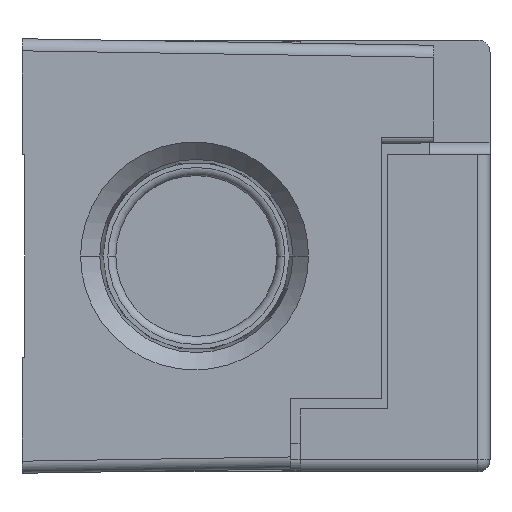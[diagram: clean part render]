
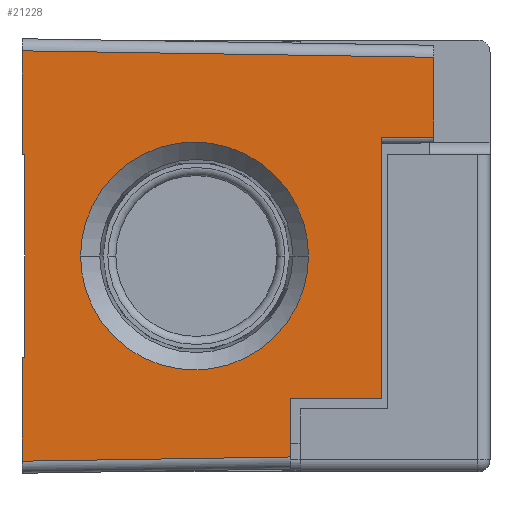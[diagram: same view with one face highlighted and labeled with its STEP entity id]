
A CAD part, front view. The second image highlights one B-rep face of the part: STEP entity #21228.
In plain terms, the highlighted planar face has unit normal (0.016, -1, 0).
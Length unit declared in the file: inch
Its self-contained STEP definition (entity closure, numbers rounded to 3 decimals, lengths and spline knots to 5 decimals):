
#16813=CARTESIAN_POINT('',(0.161,-3.18829,-0.7493));
#16823=DIRECTION('',(0.,0.,1.));
#16824=VECTOR('',#16823,0.2193);
#16825=CARTESIAN_POINT('',(0.161,-3.18829,-0.7493));
#16826=LINE('',#16825,#16824);
#17143=DIRECTION('',(0.,0.,1.));
#17144=VECTOR('',#17143,0.973);
#17145=CARTESIAN_POINT('',(0.501,-3.18295,-0.53));
#17146=LINE('',#17145,#17144);
#17151=DIRECTION('',(1.,0.016,0.));
#17152=VECTOR('',#17151,0.34004);
#17153=CARTESIAN_POINT('',(0.161,-3.18829,-0.53));
#17154=LINE('',#17153,#17152);
#17155=DIRECTION('',(-1.,-0.016,0.016));
#17156=VECTOR('',#17155,1.53538);
#17157=CARTESIAN_POINT('',(0.696,-3.17989,0.74089));
#17158=LINE('',#17157,#17156);
#17159=DIRECTION('',(1.,0.016,0.016));
#17160=VECTOR('',#17159,1.00025);
#17161=CARTESIAN_POINT('',(-0.839,-3.204,-0.76501));
#17162=LINE('',#17161,#17160);
#17163=DIRECTION('',(1.,0.016,0.));
#17164=VECTOR('',#17163,0.01);
#17165=CARTESIAN_POINT('',(-0.839,-3.204,-0.378));
#17166=LINE('',#17165,#17164);
#17167=DIRECTION('',(0.,0.,1.));
#17168=VECTOR('',#17167,0.756);
#17169=CARTESIAN_POINT('',(-0.829,-3.20384,-0.378));
#17170=LINE('',#17169,#17168);
#17171=DIRECTION('',(1.,0.016,0.));
#17172=VECTOR('',#17171,0.01);
#17173=CARTESIAN_POINT('',(-0.839,-3.204,0.378));
#17174=LINE('',#17173,#17172);
#17175=CARTESIAN_POINT('',(0.22922,-3.18722,0.));
#17176=CARTESIAN_POINT('',(0.22922,-3.18722,
-0.02503));
#17177=CARTESIAN_POINT('',(0.22477,-3.18729,
-0.07698));
#17178=CARTESIAN_POINT('',(0.20223,-3.18764,
-0.15686));
#17179=CARTESIAN_POINT('',(0.16265,-3.18826,
-0.23386));
#17180=CARTESIAN_POINT('',(0.10694,-3.18914,
-0.30258));
#17181=CARTESIAN_POINT('',(0.03821,-3.19022,
-0.35828));
#17182=CARTESIAN_POINT('',(-0.02595,-3.19123,
-0.39125));
#17183=CARTESIAN_POINT('',(-0.07874,-3.19206,
-0.40913));
#17184=CARTESIAN_POINT('',(-0.11844,-3.19268,
-0.41841));
#17185=CARTESIAN_POINT('',(-0.15111,-3.19319,
-0.42285));
#17186=CARTESIAN_POINT('',(-0.1768,-3.1936,
-0.42456));
#17187=CARTESIAN_POINT('',(-0.19567,-3.19389,
-0.42498));
#17188=CARTESIAN_POINT('',(-0.21455,-3.19419,
-0.42456));
#17189=CARTESIAN_POINT('',(-0.24024,-3.19459,
-0.42285));
#17190=CARTESIAN_POINT('',(-0.27291,-3.19511,
-0.41841));
#17191=CARTESIAN_POINT('',(-0.31261,-3.19573,
-0.40913));
#17192=CARTESIAN_POINT('',(-0.36539,-3.19656,
-0.39125));
#17193=CARTESIAN_POINT('',(-0.42956,-3.19757,
-0.35828));
#17194=CARTESIAN_POINT('',(-0.49829,-3.19865,
-0.30258));
#17195=CARTESIAN_POINT('',(-0.554,-3.19952,
-0.23386));
#17196=CARTESIAN_POINT('',(-0.59357,-3.20014,
-0.15686));
#17197=CARTESIAN_POINT('',(-0.61612,-3.2005,
-0.07698));
#17198=CARTESIAN_POINT('',(-0.62057,-3.20057,
-0.02503));
#17199=CARTESIAN_POINT('',(-0.62057,-3.20057,0.));
#17201=CARTESIAN_POINT('',(-0.62057,-3.20057,0.));
#17202=CARTESIAN_POINT('',(-0.62057,-3.20057,
0.02503));
#17203=CARTESIAN_POINT('',(-0.61612,-3.2005,
0.07698));
#17204=CARTESIAN_POINT('',(-0.59357,-3.20014,
0.15686));
#17205=CARTESIAN_POINT('',(-0.554,-3.19952,
0.23386));
#17206=CARTESIAN_POINT('',(-0.49829,-3.19865,
0.30258));
#17207=CARTESIAN_POINT('',(-0.42956,-3.19757,
0.35828));
#17208=CARTESIAN_POINT('',(-0.36539,-3.19656,
0.39125));
#17209=CARTESIAN_POINT('',(-0.31261,-3.19573,
0.40913));
#17210=CARTESIAN_POINT('',(-0.27291,-3.19511,
0.41841));
#17211=CARTESIAN_POINT('',(-0.24024,-3.19459,
0.42285));
#17212=CARTESIAN_POINT('',(-0.21455,-3.19419,
0.42456));
#17213=CARTESIAN_POINT('',(-0.19567,-3.19389,
0.42498));
#17214=CARTESIAN_POINT('',(-0.1768,-3.1936,
0.42456));
#17215=CARTESIAN_POINT('',(-0.15111,-3.19319,
0.42285));
#17216=CARTESIAN_POINT('',(-0.11844,-3.19268,
0.41841));
#17217=CARTESIAN_POINT('',(-0.07874,-3.19206,
0.40913));
#17218=CARTESIAN_POINT('',(-0.02595,-3.19123,
0.39125));
#17219=CARTESIAN_POINT('',(0.03821,-3.19022,
0.35828));
#17220=CARTESIAN_POINT('',(0.10694,-3.18914,
0.30258));
#17221=CARTESIAN_POINT('',(0.16265,-3.18826,
0.23386));
#17222=CARTESIAN_POINT('',(0.20223,-3.18764,
0.15686));
#17223=CARTESIAN_POINT('',(0.22477,-3.18729,
0.07698));
#17224=CARTESIAN_POINT('',(0.22922,-3.18722,
0.02503));
#17225=CARTESIAN_POINT('',(0.22922,-3.18722,0.));
#17227=CARTESIAN_POINT('',(-0.839,-3.204,0.76501));
#17237=DIRECTION('',(0.,0.,1.));
#17238=VECTOR('',#17237,0.38701);
#17239=CARTESIAN_POINT('',(-0.839,-3.204,0.378));
#17240=LINE('',#17239,#17238);
#17741=CARTESIAN_POINT('',(0.696,-3.17989,0.74089));
#17770=DIRECTION('',(0.,0.,-1.));
#17771=VECTOR('',#17770,0.29789);
#17772=CARTESIAN_POINT('',(0.696,-3.17989,0.74089));
#17773=LINE('',#17772,#17771);
#17833=DIRECTION('',(1.,0.016,0.));
#17834=VECTOR('',#17833,0.19502);
#17835=CARTESIAN_POINT('',(0.501,-3.18295,0.443));
#17836=LINE('',#17835,#17834);
#17969=CARTESIAN_POINT('',(-0.839,-3.204,-0.76501));
#17988=DIRECTION('',(0.,0.,1.));
#17989=VECTOR('',#17988,0.38701);
#17990=CARTESIAN_POINT('',(-0.839,-3.204,-0.76501));
#17991=LINE('',#17990,#17989);
#19169=CARTESIAN_POINT('',(0.22922,-3.18722,0.));
#19170=VERTEX_POINT('',#19169);
#19171=CARTESIAN_POINT('',(-0.62057,-3.20057,0.));
#19172=VERTEX_POINT('',#19171);
#19174=CARTESIAN_POINT('',(0.501,-3.18295,0.443));
#19176=VERTEX_POINT('',#19174);
#19183=CARTESIAN_POINT('',(0.696,-3.17989,0.443));
#19184=VERTEX_POINT('',#19183);
#19185=CARTESIAN_POINT('',(0.501,-3.18295,-0.53));
#19186=VERTEX_POINT('',#19185);
#19193=CARTESIAN_POINT('',(0.161,-3.18829,-0.53));
#19194=VERTEX_POINT('',#19193);
#19197=VERTEX_POINT('',#17227);
#19201=VERTEX_POINT('',#17741);
#19202=VERTEX_POINT('',#16813);
#19206=VERTEX_POINT('',#17969);
#19259=CARTESIAN_POINT('',(-0.839,-3.204,-0.378));
#19260=VERTEX_POINT('',#19259);
#19261=CARTESIAN_POINT('',(-0.839,-3.204,0.378));
#19263=VERTEX_POINT('',#19261);
#19281=CARTESIAN_POINT('',(-0.829,-3.20384,-0.378));
#19282=CARTESIAN_POINT('',(-0.829,-3.20384,0.378));
#19283=VERTEX_POINT('',#19281);
#19284=VERTEX_POINT('',#19282);
#21194=CARTESIAN_POINT('',(-0.839,-3.204,-1.85443));
#21195=DIRECTION('',(0.016,-1.,0.));
#21196=DIRECTION('',(0.,0.,1.));
#21197=AXIS2_PLACEMENT_3D('',#21194,#21195,#21196);
#21198=PLANE('',#21197);
#21200=ORIENTED_EDGE('',*,*,#21199,.F.);
#21202=ORIENTED_EDGE('',*,*,#21201,.T.);
#21204=ORIENTED_EDGE('',*,*,#21203,.F.);
#21205=ORIENTED_EDGE('',*,*,#21173,.F.);
#21206=ORIENTED_EDGE('',*,*,#21188,.F.);
#21207=ORIENTED_EDGE('',*,*,#20709,.F.);
#21209=ORIENTED_EDGE('',*,*,#21208,.F.);
#21211=ORIENTED_EDGE('',*,*,#21210,.T.);
#21213=ORIENTED_EDGE('',*,*,#21212,.T.);
#21215=ORIENTED_EDGE('',*,*,#21214,.T.);
#21217=ORIENTED_EDGE('',*,*,#21216,.F.);
#21219=ORIENTED_EDGE('',*,*,#21218,.T.);
#21220=EDGE_LOOP('',(#21200,#21202,#21204,#21205,#21206,#21207,#21209,#21211,
#21213,#21215,#21217,#21219));
#21221=FACE_OUTER_BOUND('',#21220,.F.);
#21223=ORIENTED_EDGE('',*,*,#21222,.F.);
#21225=ORIENTED_EDGE('',*,*,#21224,.F.);
#21226=EDGE_LOOP('',(#21223,#21225));
#21227=FACE_BOUND('',#21226,.F.);
#21228=ADVANCED_FACE('',(#21221,#21227),#21198,.T.);
#17200=B_SPLINE_CURVE_WITH_KNOTS('',3,(#17175,#17176,#17177,#17178,#17179,
#17180,#17181,#17182,#17183,#17184,#17185,#17186,#17187,#17188,#17189,#17190,
#17191,#17192,#17193,#17194,#17195,#17196,#17197,#17198,#17199),.UNSPECIFIED.,
.F.,.F.,(4,1,1,1,1,1,1,1,1,1,1,1,1,1,1,1,1,1,1,1,1,1,4),(0.,0.0625,0.125,
0.1875,0.25,0.3125,0.375,0.40625,0.4375,0.46875,0.48438,0.5,
0.51563,0.53125,0.5625,0.59375,0.625,0.6875,0.75,0.8125,
0.875,0.9375,1.),.UNSPECIFIED.);
#17226=B_SPLINE_CURVE_WITH_KNOTS('',3,(#17201,#17202,#17203,#17204,#17205,
#17206,#17207,#17208,#17209,#17210,#17211,#17212,#17213,#17214,#17215,#17216,
#17217,#17218,#17219,#17220,#17221,#17222,#17223,#17224,#17225),.UNSPECIFIED.,
.F.,.F.,(4,1,1,1,1,1,1,1,1,1,1,1,1,1,1,1,1,1,1,1,1,1,4),(0.,0.0625,0.125,
0.1875,0.25,0.3125,0.375,0.40625,0.4375,0.46875,0.48438,0.5,
0.51563,0.53125,0.5625,0.59375,0.625,0.6875,0.75,0.8125,
0.875,0.9375,1.),.UNSPECIFIED.);
#20709=EDGE_CURVE('',#19202,#19194,#16826,.T.);
#21173=EDGE_CURVE('',#19186,#19176,#17146,.T.);
#21188=EDGE_CURVE('',#19194,#19186,#17154,.T.);
#21199=EDGE_CURVE('',#19201,#19197,#17158,.T.);
#21201=EDGE_CURVE('',#19201,#19184,#17773,.T.);
#21203=EDGE_CURVE('',#19176,#19184,#17836,.T.);
#21208=EDGE_CURVE('',#19206,#19202,#17162,.T.);
#21210=EDGE_CURVE('',#19206,#19260,#17991,.T.);
#21212=EDGE_CURVE('',#19260,#19283,#17166,.T.);
#21214=EDGE_CURVE('',#19283,#19284,#17170,.T.);
#21216=EDGE_CURVE('',#19263,#19284,#17174,.T.);
#21218=EDGE_CURVE('',#19263,#19197,#17240,.T.);
#21222=EDGE_CURVE('',#19170,#19172,#17200,.T.);
#21224=EDGE_CURVE('',#19172,#19170,#17226,.T.);
